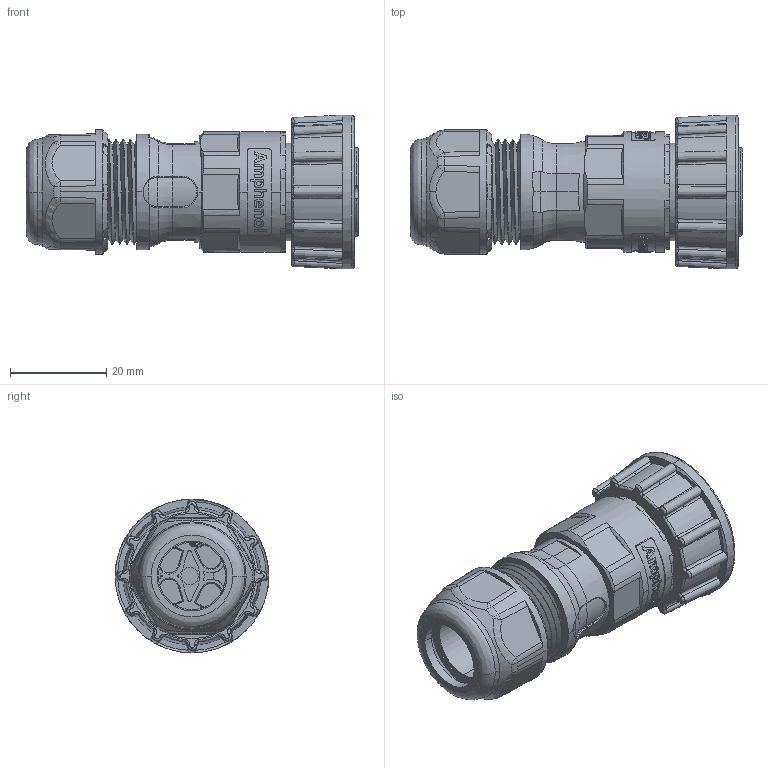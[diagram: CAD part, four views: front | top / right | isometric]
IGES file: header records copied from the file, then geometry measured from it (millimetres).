
Start section:  PTC IGES file: 1dc-04bffb-sl7lpp.igs
Global section: file name: 1dc-04bffb-sl7lpp.igs; native system: Creo Parametric by Parametric Technology Corporation; preprocessor: 2017170; author: L210039; organization: Unknown; date: 20211008.172132; units: millimetre
Bounding box: 69.05 x 32 x 32 mm (x, y, z)
Volume: 23350.3 mm3; surface area: 15141.5 mm2
Topology: 2 solids, 2 shells, 1097 faces, 2913 edges, 1877 vertices
Faces by surface type: bspline 487, revolution 387, extrusion 223
